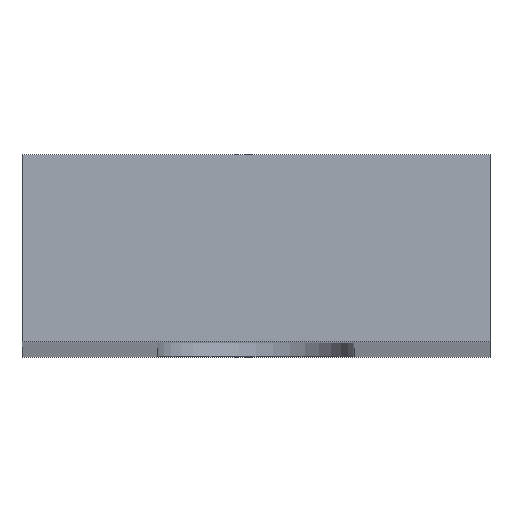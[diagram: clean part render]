
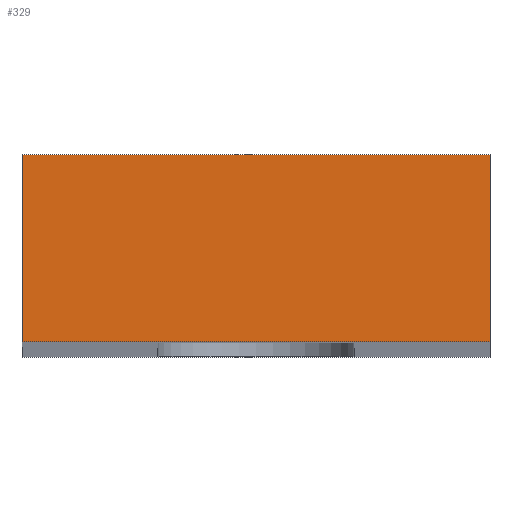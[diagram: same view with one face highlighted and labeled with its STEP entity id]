
A CAD part, top view. The second image highlights one B-rep face of the part: STEP entity #329.
In plain terms, the highlighted planar face has unit normal (0, 0, 1).
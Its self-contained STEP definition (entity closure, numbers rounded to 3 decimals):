
#24 = VERTEX_POINT('',#25);
#25 = CARTESIAN_POINT('',(53.,-28.,95.));
#32 = PLANE('',#33);
#33 = AXIS2_PLACEMENT_3D('',#34,#35,#36);
#34 = CARTESIAN_POINT('',(53.,-28.,-95.));
#35 = DIRECTION('',(1.,0.,0.));
#36 = DIRECTION('',(0.,0.,1.));
#44 = PLANE('',#45);
#45 = AXIS2_PLACEMENT_3D('',#46,#47,#48);
#46 = CARTESIAN_POINT('',(53.,-28.,-95.));
#47 = DIRECTION('',(0.,1.,0.));
#48 = DIRECTION('',(0.,0.,1.));
#85 = VERTEX_POINT('',#86);
#86 = CARTESIAN_POINT('',(53.,-24.,95.));
#100 = PLANE('',#101);
#101 = AXIS2_PLACEMENT_3D('',#102,#103,#104);
#102 = CARTESIAN_POINT('',(53.,-24.,-95.));
#103 = DIRECTION('',(0.,1.,0.));
#104 = DIRECTION('',(0.,0.,1.));
#112 = EDGE_CURVE('',#24,#85,#113,.T.);
#113 = SURFACE_CURVE('',#114,(#118,#125),.PCURVE_S1.);
#114 = LINE('',#115,#116);
#115 = CARTESIAN_POINT('',(53.,-28.,95.));
#116 = VECTOR('',#117,1.);
#117 = DIRECTION('',(0.,1.,0.));
#118 = PCURVE('',#32,#119);
#119 = DEFINITIONAL_REPRESENTATION('',(#120),#124);
#120 = LINE('',#121,#122);
#121 = CARTESIAN_POINT('',(190.,0.));
#122 = VECTOR('',#123,1.);
#123 = DIRECTION('',(0.,-1.));
#124 = ( GEOMETRIC_REPRESENTATION_CONTEXT(2)
PARAMETRIC_REPRESENTATION_CONTEXT() REPRESENTATION_CONTEXT('2D SPACE',''
  ) );
#125 = PCURVE('',#126,#131);
#126 = PLANE('',#127);
#127 = AXIS2_PLACEMENT_3D('',#128,#129,#130);
#128 = CARTESIAN_POINT('',(53.,-28.,95.));
#129 = DIRECTION('',(0.,0.,1.));
#130 = DIRECTION('',(1.,0.,0.));
#131 = DEFINITIONAL_REPRESENTATION('',(#132),#136);
#132 = LINE('',#133,#134);
#133 = CARTESIAN_POINT('',(0.,0.));
#134 = VECTOR('',#135,1.);
#135 = DIRECTION('',(0.,1.));
#136 = ( GEOMETRIC_REPRESENTATION_CONTEXT(2)
PARAMETRIC_REPRESENTATION_CONTEXT() REPRESENTATION_CONTEXT('2D SPACE',''
  ) );
#165 = EDGE_CURVE('',#24,#166,#168,.T.);
#166 = VERTEX_POINT('',#167);
#167 = CARTESIAN_POINT('',(63.,-28.,95.));
#168 = SURFACE_CURVE('',#169,(#173,#180),.PCURVE_S1.);
#169 = LINE('',#170,#171);
#170 = CARTESIAN_POINT('',(53.,-28.,95.));
#171 = VECTOR('',#172,1.);
#172 = DIRECTION('',(1.,0.,0.));
#173 = PCURVE('',#44,#174);
#174 = DEFINITIONAL_REPRESENTATION('',(#175),#179);
#175 = LINE('',#176,#177);
#176 = CARTESIAN_POINT('',(190.,0.));
#177 = VECTOR('',#178,1.);
#178 = DIRECTION('',(0.,1.));
#179 = ( GEOMETRIC_REPRESENTATION_CONTEXT(2)
PARAMETRIC_REPRESENTATION_CONTEXT() REPRESENTATION_CONTEXT('2D SPACE',''
  ) );
#180 = PCURVE('',#126,#181);
#181 = DEFINITIONAL_REPRESENTATION('',(#182),#186);
#182 = LINE('',#183,#184);
#183 = CARTESIAN_POINT('',(0.,0.));
#184 = VECTOR('',#185,1.);
#185 = DIRECTION('',(1.,0.));
#186 = ( GEOMETRIC_REPRESENTATION_CONTEXT(2)
PARAMETRIC_REPRESENTATION_CONTEXT() REPRESENTATION_CONTEXT('2D SPACE',''
  ) );
#202 = PLANE('',#203);
#203 = AXIS2_PLACEMENT_3D('',#204,#205,#206);
#204 = CARTESIAN_POINT('',(63.,-28.,-95.));
#205 = DIRECTION('',(1.,0.,0.));
#206 = DIRECTION('',(0.,0.,1.));
#329 = ADVANCED_FACE('',(#330),#126,.T.);
#330 = FACE_BOUND('',#331,.T.);
#331 = EDGE_LOOP('',(#332,#333,#334,#357));
#332 = ORIENTED_EDGE('',*,*,#112,.F.);
#333 = ORIENTED_EDGE('',*,*,#165,.T.);
#334 = ORIENTED_EDGE('',*,*,#335,.T.);
#335 = EDGE_CURVE('',#166,#336,#338,.T.);
#336 = VERTEX_POINT('',#337);
#337 = CARTESIAN_POINT('',(63.,-24.,95.));
#338 = SURFACE_CURVE('',#339,(#343,#350),.PCURVE_S1.);
#339 = LINE('',#340,#341);
#340 = CARTESIAN_POINT('',(63.,-28.,95.));
#341 = VECTOR('',#342,1.);
#342 = DIRECTION('',(0.,1.,0.));
#343 = PCURVE('',#126,#344);
#344 = DEFINITIONAL_REPRESENTATION('',(#345),#349);
#345 = LINE('',#346,#347);
#346 = CARTESIAN_POINT('',(10.,0.));
#347 = VECTOR('',#348,1.);
#348 = DIRECTION('',(0.,1.));
#349 = ( GEOMETRIC_REPRESENTATION_CONTEXT(2)
PARAMETRIC_REPRESENTATION_CONTEXT() REPRESENTATION_CONTEXT('2D SPACE',''
  ) );
#350 = PCURVE('',#202,#351);
#351 = DEFINITIONAL_REPRESENTATION('',(#352),#356);
#352 = LINE('',#353,#354);
#353 = CARTESIAN_POINT('',(190.,0.));
#354 = VECTOR('',#355,1.);
#355 = DIRECTION('',(0.,-1.));
#356 = ( GEOMETRIC_REPRESENTATION_CONTEXT(2)
PARAMETRIC_REPRESENTATION_CONTEXT() REPRESENTATION_CONTEXT('2D SPACE',''
  ) );
#357 = ORIENTED_EDGE('',*,*,#358,.F.);
#358 = EDGE_CURVE('',#85,#336,#359,.T.);
#359 = SURFACE_CURVE('',#360,(#364,#371),.PCURVE_S1.);
#360 = LINE('',#361,#362);
#361 = CARTESIAN_POINT('',(53.,-24.,95.));
#362 = VECTOR('',#363,1.);
#363 = DIRECTION('',(1.,0.,0.));
#364 = PCURVE('',#126,#365);
#365 = DEFINITIONAL_REPRESENTATION('',(#366),#370);
#366 = LINE('',#367,#368);
#367 = CARTESIAN_POINT('',(0.,4.));
#368 = VECTOR('',#369,1.);
#369 = DIRECTION('',(1.,0.));
#370 = ( GEOMETRIC_REPRESENTATION_CONTEXT(2)
PARAMETRIC_REPRESENTATION_CONTEXT() REPRESENTATION_CONTEXT('2D SPACE',''
  ) );
#371 = PCURVE('',#100,#372);
#372 = DEFINITIONAL_REPRESENTATION('',(#373),#377);
#373 = LINE('',#374,#375);
#374 = CARTESIAN_POINT('',(190.,0.));
#375 = VECTOR('',#376,1.);
#376 = DIRECTION('',(0.,1.));
#377 = ( GEOMETRIC_REPRESENTATION_CONTEXT(2)
PARAMETRIC_REPRESENTATION_CONTEXT() REPRESENTATION_CONTEXT('2D SPACE',''
  ) );
